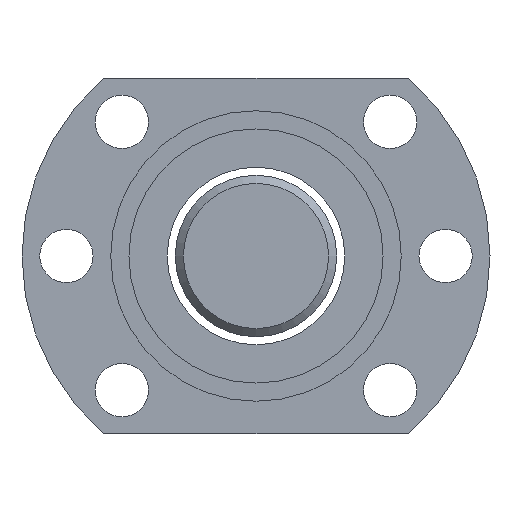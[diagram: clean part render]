
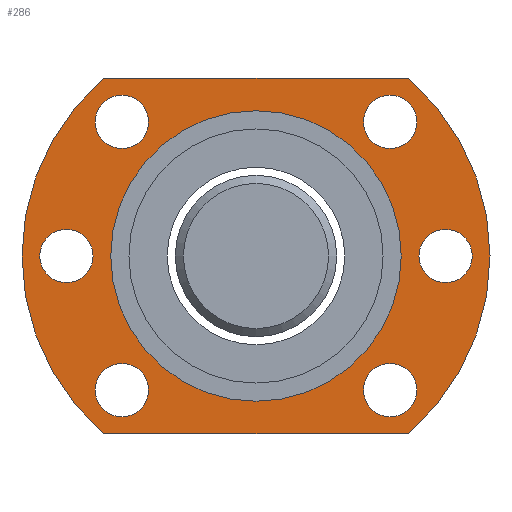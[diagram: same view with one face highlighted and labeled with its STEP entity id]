
A CAD part, left-side view. The second image highlights one B-rep face of the part: STEP entity #286.
In plain terms, the highlighted planar face has unit normal (-1, 0, 0).
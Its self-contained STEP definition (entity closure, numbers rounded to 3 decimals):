
#97=LINE('',#1193,#105);
#98=LINE('',#1197,#106);
#105=VECTOR('',#1012,1.);
#106=VECTOR('',#1015,1.);
#227=FACE_BOUND('',#407,.T.);
#228=FACE_BOUND('',#408,.T.);
#229=FACE_BOUND('',#409,.T.);
#230=FACE_BOUND('',#410,.T.);
#231=FACE_BOUND('',#411,.T.);
#232=FACE_BOUND('',#412,.T.);
#233=FACE_BOUND('',#413,.T.);
#234=FACE_BOUND('',#414,.T.);
#286=ADVANCED_FACE('',(#227,#228,#229,#230,#231,#232,#233,#234),#316,.T.);
#316=PLANE('',#823);
#407=EDGE_LOOP('',(#516));
#408=EDGE_LOOP('',(#517));
#409=EDGE_LOOP('',(#518,#519,#520,#521));
#410=EDGE_LOOP('',(#522));
#411=EDGE_LOOP('',(#523));
#412=EDGE_LOOP('',(#524));
#413=EDGE_LOOP('',(#525));
#414=EDGE_LOOP('',(#526));
#516=ORIENTED_EDGE('',*,*,#661,.T.);
#517=ORIENTED_EDGE('',*,*,#650,.F.);
#518=ORIENTED_EDGE('',*,*,#662,.T.);
#519=ORIENTED_EDGE('',*,*,#663,.T.);
#520=ORIENTED_EDGE('',*,*,#664,.T.);
#521=ORIENTED_EDGE('',*,*,#665,.T.);
#522=ORIENTED_EDGE('',*,*,#666,.F.);
#523=ORIENTED_EDGE('',*,*,#667,.F.);
#524=ORIENTED_EDGE('',*,*,#668,.F.);
#525=ORIENTED_EDGE('',*,*,#669,.T.);
#526=ORIENTED_EDGE('',*,*,#670,.T.);
#592=VERTEX_POINT('',#1165);
#603=VERTEX_POINT('',#1189);
#604=VERTEX_POINT('',#1191);
#605=VERTEX_POINT('',#1192);
#606=VERTEX_POINT('',#1194);
#607=VERTEX_POINT('',#1196);
#608=VERTEX_POINT('',#1199);
#609=VERTEX_POINT('',#1201);
#610=VERTEX_POINT('',#1203);
#611=VERTEX_POINT('',#1205);
#612=VERTEX_POINT('',#1207);
#650=EDGE_CURVE('',#592,#592,#712,.T.);
#661=EDGE_CURVE('',#603,#603,#721,.T.);
#662=EDGE_CURVE('',#604,#605,#722,.T.);
#663=EDGE_CURVE('',#605,#606,#97,.T.);
#664=EDGE_CURVE('',#606,#607,#723,.T.);
#665=EDGE_CURVE('',#607,#604,#98,.T.);
#666=EDGE_CURVE('',#608,#608,#724,.T.);
#667=EDGE_CURVE('',#609,#609,#725,.T.);
#668=EDGE_CURVE('',#610,#610,#726,.T.);
#669=EDGE_CURVE('',#611,#611,#727,.T.);
#670=EDGE_CURVE('',#612,#612,#728,.T.);
#712=CIRCLE('',#804,18.);
#721=CIRCLE('',#815,3.3);
#722=CIRCLE('',#816,29.);
#723=CIRCLE('',#817,29.);
#724=CIRCLE('',#818,3.3);
#725=CIRCLE('',#819,3.3);
#726=CIRCLE('',#820,3.3);
#727=CIRCLE('',#821,3.3);
#728=CIRCLE('',#822,3.3);
#804=AXIS2_PLACEMENT_3D('',#1164,#984,#985);
#815=AXIS2_PLACEMENT_3D('',#1188,#1008,#1009);
#816=AXIS2_PLACEMENT_3D('',#1190,#1010,#1011);
#817=AXIS2_PLACEMENT_3D('',#1195,#1013,#1014);
#818=AXIS2_PLACEMENT_3D('',#1198,#1016,#1017);
#819=AXIS2_PLACEMENT_3D('',#1200,#1018,#1019);
#820=AXIS2_PLACEMENT_3D('',#1202,#1020,#1021);
#821=AXIS2_PLACEMENT_3D('',#1204,#1022,#1023);
#822=AXIS2_PLACEMENT_3D('',#1206,#1024,#1025);
#823=AXIS2_PLACEMENT_3D('',#1208,#1026,#1027);
#984=DIRECTION('',(-1.,0.,0.));
#985=DIRECTION('',(0.,0.,-1.));
#1008=DIRECTION('',(1.,0.,0.));
#1009=DIRECTION('',(0.,0.,1.));
#1010=DIRECTION('',(-1.,0.,0.));
#1011=DIRECTION('',(0.,0.,-1.));
#1012=DIRECTION('',(0.,-1.,0.));
#1013=DIRECTION('',(-1.,0.,0.));
#1014=DIRECTION('',(0.,0.,-1.));
#1015=DIRECTION('',(0.,1.,0.));
#1016=DIRECTION('',(-1.,0.,0.));
#1017=DIRECTION('',(0.,0.,1.));
#1018=DIRECTION('',(-1.,0.,0.));
#1019=DIRECTION('',(0.,0.,1.));
#1020=DIRECTION('',(-1.,0.,0.));
#1021=DIRECTION('',(0.,0.,1.));
#1022=DIRECTION('',(1.,0.,0.));
#1023=DIRECTION('',(0.,0.,1.));
#1024=DIRECTION('',(1.,0.,0.));
#1025=DIRECTION('',(0.,0.,1.));
#1026=DIRECTION('',(-1.,0.,0.));
#1027=DIRECTION('',(0.,0.,1.));
#1164=CARTESIAN_POINT('',(-65.328,-20.475,-35.11));
#1165=CARTESIAN_POINT('',(-65.328,-20.475,-53.11));
#1188=CARTESIAN_POINT('',(-65.328,-43.975,-35.11));
#1189=CARTESIAN_POINT('',(-65.328,-43.975,-31.81));
#1190=CARTESIAN_POINT('',(-65.328,-20.475,-35.11));
#1191=CARTESIAN_POINT('',(-65.328,-1.581,-13.11));
#1192=CARTESIAN_POINT('',(-65.328,-1.581,-57.11));
#1193=CARTESIAN_POINT('',(-65.328,-1.581,-57.11));
#1194=CARTESIAN_POINT('',(-65.328,-39.369,-57.11));
#1195=CARTESIAN_POINT('',(-65.328,-20.475,-35.11));
#1196=CARTESIAN_POINT('',(-65.328,-39.369,-13.11));
#1197=CARTESIAN_POINT('',(-65.328,-39.369,-13.11));
#1198=CARTESIAN_POINT('',(-65.328,3.025,-35.11));
#1199=CARTESIAN_POINT('',(-65.328,3.025,-31.81));
#1200=CARTESIAN_POINT('',(-65.328,-3.858,-18.493));
#1201=CARTESIAN_POINT('',(-65.328,-3.858,-15.193));
#1202=CARTESIAN_POINT('',(-65.328,-3.858,-51.727));
#1203=CARTESIAN_POINT('',(-65.328,-3.858,-48.427));
#1204=CARTESIAN_POINT('',(-65.328,-37.092,-51.727));
#1205=CARTESIAN_POINT('',(-65.328,-37.092,-48.427));
#1206=CARTESIAN_POINT('',(-65.328,-37.092,-18.493));
#1207=CARTESIAN_POINT('',(-65.328,-37.092,-15.193));
#1208=CARTESIAN_POINT('',(-65.328,-20.475,-35.11));
